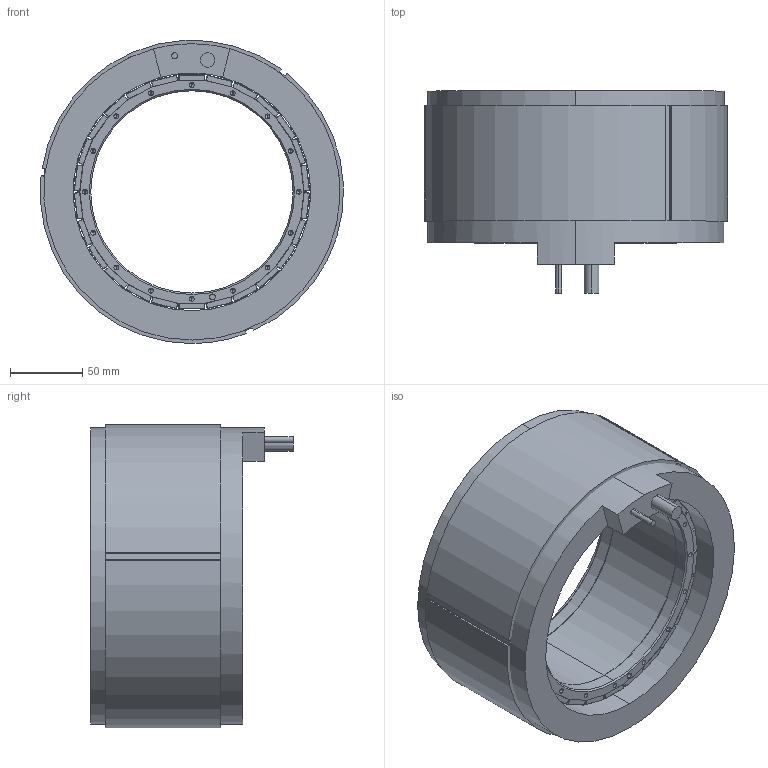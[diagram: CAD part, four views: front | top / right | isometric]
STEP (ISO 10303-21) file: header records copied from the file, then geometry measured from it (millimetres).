
FILE_DESCRIPTION (( 'STEP AP203' ), '1' );
FILE_NAME ('TM210-105 KIT.STEP', '2024-03-27T03:17:39', ( '' ), ( '' ), 'SwSTEP 2.0', 'SolidWorks 2021', '' );
FILE_SCHEMA (( 'CONFIG_CONTROL_DESIGN' ));
Length unit declared in the file: millimetre
Products named in the file (1): TM210-105 KIT
Bounding box: 209.71 x 140 x 209.86 mm (x, y, z)
Volume: 1973722.4 mm3; surface area: 449254.2 mm2
Topology: 29 solids, 29 shells, 980 faces, 2270 edges, 1112 vertices
Faces by surface type: cylinder 413, plane 291, sphere 208, cone 68
Entity records: 25117 total; most frequent: DIRECTION 4794, CARTESIAN_POINT 4091, ORIENTED_EDGE 3996, EDGE_CURVE 1998, AXIS2_PLACEMENT_3D 1815, LINE 1164, VECTOR 1164, VERTEX_POINT 1112
